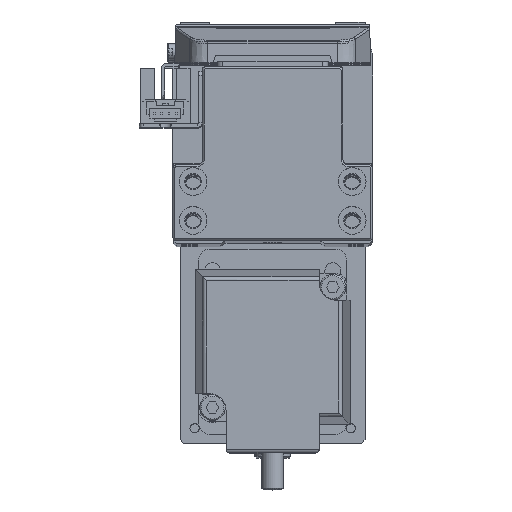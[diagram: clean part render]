
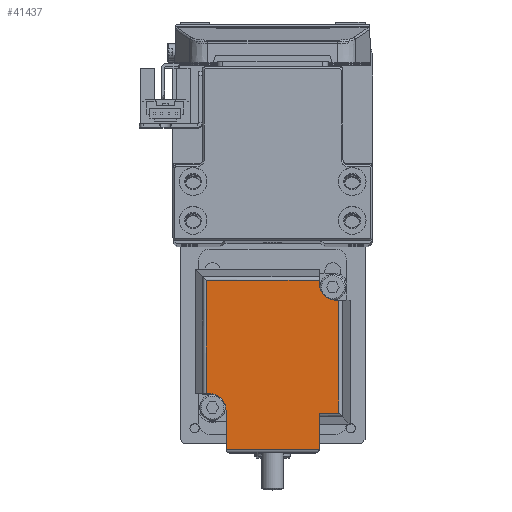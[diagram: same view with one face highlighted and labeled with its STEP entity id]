
A CAD part, top view. The second image highlights one B-rep face of the part: STEP entity #41437.
In plain terms, the highlighted planar face has unit normal (0, 0, 1) as drawn and (0, 1, 0) by its records, which use the part's own axes.
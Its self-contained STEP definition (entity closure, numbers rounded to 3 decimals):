
#7 = LINE ( 'NONE', #7771, #16183 ) ;
#43 = LINE ( 'NONE', #2878, #37545 ) ;
#389 = VERTEX_POINT ( 'NONE', #32832 ) ;
#881 = EDGE_CURVE ( 'NONE', #24530, #37977, #45633, .T. ) ;
#950 = EDGE_CURVE ( 'NONE', #2072, #24530, #27148, .T. ) ;
#1562 = DIRECTION ( 'NONE',  ( 0., 0., -1. ) ) ;
#1704 = ORIENTED_EDGE ( 'NONE', *, *, #17588, .F. ) ;
#2072 = VERTEX_POINT ( 'NONE', #35797 ) ;
#2878 = CARTESIAN_POINT ( 'NONE',  ( 27.7, 100.6, 25. ) ) ;
#3508 = CARTESIAN_POINT ( 'NONE',  ( -12.6, 100.6, -17.1 ) ) ;
#3901 = CARTESIAN_POINT ( 'NONE',  ( 17.929, 100.6, -17.929 ) ) ;
#4098 = ORIENTED_EDGE ( 'NONE', *, *, #26510, .T. ) ;
#5738 = VECTOR ( 'NONE', #46178, 1000. ) ;
#6217 = ORIENTED_EDGE ( 'NONE', *, *, #19540, .F. ) ;
#6352 = DIRECTION ( 'NONE',  ( 0., 0., 1. ) ) ;
#6552 = CARTESIAN_POINT ( 'NONE',  ( 17.929, 100.6, -12.6 ) ) ;
#7771 = CARTESIAN_POINT ( 'NONE',  ( 17.929, 100.6, -17.929 ) ) ;
#7892 = LINE ( 'NONE', #25235, #26949 ) ;
#8450 = CARTESIAN_POINT ( 'NONE',  ( 17.929, 100.6, -12.6 ) ) ;
#9416 = VERTEX_POINT ( 'NONE', #39577 ) ;
#10332 = EDGE_CURVE ( 'NONE', #26587, #44959, #24036, .T. ) ;
#11729 = PLANE ( 'NONE',  #21331 ) ;
#11853 = ORIENTED_EDGE ( 'NONE', *, *, #28881, .F. ) ;
#11965 = LINE ( 'NONE', #8450, #13814 ) ;
#12115 = VECTOR ( 'NONE', #6352, 1000. ) ;
#12447 = DIRECTION ( 'NONE',  ( -1., 0., 0. ) ) ;
#13629 = EDGE_CURVE ( 'NONE', #18564, #9416, #11965, .T. ) ;
#13702 = LINE ( 'NONE', #36603, #31570 ) ;
#13814 = VECTOR ( 'NONE', #20089, 1000. ) ;
#14143 = CIRCLE ( 'NONE', #44912, 4.5 ) ;
#14474 = DIRECTION ( 'NONE',  ( 0., 0., 1. ) ) ;
#15408 = VECTOR ( 'NONE', #16849, 1000. ) ;
#15498 = DIRECTION ( 'NONE',  ( 0., 0., -1. ) ) ;
#16183 = VECTOR ( 'NONE', #44559, 1000. ) ;
#16328 = LINE ( 'NONE', #45594, #19162 ) ;
#16362 = ORIENTED_EDGE ( 'NONE', *, *, #20916, .T. ) ;
#16842 = CARTESIAN_POINT ( 'NONE',  ( 17.1, 100.6, 12.6 ) ) ;
#16849 = DIRECTION ( 'NONE',  ( 0., 0., -1. ) ) ;
#17450 = CIRCLE ( 'NONE', #26139, 4.5 ) ;
#17588 = EDGE_CURVE ( 'NONE', #37977, #389, #16328, .T. ) ;
#17663 = CARTESIAN_POINT ( 'NONE',  ( 17.1, 100.6, 17.1 ) ) ;
#18564 = VERTEX_POINT ( 'NONE', #6552 ) ;
#19057 = ORIENTED_EDGE ( 'NONE', *, *, #10332, .F. ) ;
#19162 = VECTOR ( 'NONE', #1562, 1000. ) ;
#19540 = EDGE_CURVE ( 'NONE', #9416, #23610, #43, .T. ) ;
#19881 = CARTESIAN_POINT ( 'NONE',  ( 25., 100.6, 17.929 ) ) ;
#20089 = DIRECTION ( 'NONE',  ( 1., 0., 0. ) ) ;
#20563 = VERTEX_POINT ( 'NONE', #47830 ) ;
#20916 = EDGE_CURVE ( 'NONE', #20563, #23610, #35151, .T. ) ;
#21331 = AXIS2_PLACEMENT_3D ( 'NONE', #41117, #44508, #15498 ) ;
#21783 = CARTESIAN_POINT ( 'NONE',  ( 12.6, 100.6, 25. ) ) ;
#22596 = EDGE_CURVE ( 'NONE', #41424, #18564, #13702, .T. ) ;
#23602 = CARTESIAN_POINT ( 'NONE',  ( 12.6, 100.6, 17.929 ) ) ;
#23608 = CARTESIAN_POINT ( 'NONE',  ( -12.6, 100.6, -17.929 ) ) ;
#23610 = VERTEX_POINT ( 'NONE', #33407 ) ;
#24036 = LINE ( 'NONE', #38924, #15408 ) ;
#24530 = VERTEX_POINT ( 'NONE', #23602 ) ;
#25227 = CARTESIAN_POINT ( 'NONE',  ( -17.929, 100.6, 17.929 ) ) ;
#25235 = CARTESIAN_POINT ( 'NONE',  ( 17.929, 100.6, -12.6 ) ) ;
#25569 = CARTESIAN_POINT ( 'NONE',  ( -17.1, 100.6, -12.6 ) ) ;
#26139 = AXIS2_PLACEMENT_3D ( 'NONE', #17663, #44987, #45980 ) ;
#26510 = EDGE_CURVE ( 'NONE', #2072, #20563, #17450, .T. ) ;
#26587 = VERTEX_POINT ( 'NONE', #3508 ) ;
#26949 = VECTOR ( 'NONE', #47487, 1000. ) ;
#27148 = LINE ( 'NONE', #21783, #12115 ) ;
#27952 = ORIENTED_EDGE ( 'NONE', *, *, #22596, .F. ) ;
#28881 = EDGE_CURVE ( 'NONE', #44959, #41424, #7, .T. ) ;
#29374 = DIRECTION ( 'NONE',  ( 0., 0., 1. ) ) ;
#30714 = DIRECTION ( 'NONE',  ( 0., 0., 1. ) ) ;
#31046 = CARTESIAN_POINT ( 'NONE',  ( -17.1, 100.6, -17.1 ) ) ;
#31570 = VECTOR ( 'NONE', #29374, 1000. ) ;
#32786 = EDGE_LOOP ( 'NONE', ( #16362, #6217, #43020, #27952, #11853, #19057, #41905, #41648, #1704, #39978, #36093, #4098 ) ) ;
#32832 = CARTESIAN_POINT ( 'NONE',  ( -17.929, 100.6, -12.6 ) ) ;
#33407 = CARTESIAN_POINT ( 'NONE',  ( 27.7, 100.6, 12.6 ) ) ;
#34846 = VERTEX_POINT ( 'NONE', #25569 ) ;
#35151 = LINE ( 'NONE', #16842, #5738 ) ;
#35797 = CARTESIAN_POINT ( 'NONE',  ( 12.6, 100.6, 17.1 ) ) ;
#35814 = VECTOR ( 'NONE', #12447, 1000. ) ;
#36093 = ORIENTED_EDGE ( 'NONE', *, *, #950, .F. ) ;
#36440 = FACE_OUTER_BOUND ( 'NONE', #32786, .T. ) ;
#36603 = CARTESIAN_POINT ( 'NONE',  ( 17.929, 100.6, 25. ) ) ;
#37240 = EDGE_CURVE ( 'NONE', #389, #34846, #7892, .T. ) ;
#37545 = VECTOR ( 'NONE', #14474, 1000. ) ;
#37977 = VERTEX_POINT ( 'NONE', #25227 ) ;
#38621 = DIRECTION ( 'NONE',  ( 0., 1., 0. ) ) ;
#38924 = CARTESIAN_POINT ( 'NONE',  ( -12.6, 100.6, 25. ) ) ;
#39577 = CARTESIAN_POINT ( 'NONE',  ( 27.7, 100.6, -12.6 ) ) ;
#39978 = ORIENTED_EDGE ( 'NONE', *, *, #881, .F. ) ;
#41117 = CARTESIAN_POINT ( 'NONE',  ( 17.929, 100.6, 25. ) ) ;
#41424 = VERTEX_POINT ( 'NONE', #3901 ) ;
#41437 = ADVANCED_FACE ( 'NONE', ( #36440 ), #11729, .F. ) ;
#41648 = ORIENTED_EDGE ( 'NONE', *, *, #37240, .F. ) ;
#41905 = ORIENTED_EDGE ( 'NONE', *, *, #44868, .F. ) ;
#43020 = ORIENTED_EDGE ( 'NONE', *, *, #13629, .F. ) ;
#44508 = DIRECTION ( 'NONE',  ( 0., -1., 0. ) ) ;
#44559 = DIRECTION ( 'NONE',  ( 1., 0., 0. ) ) ;
#44868 = EDGE_CURVE ( 'NONE', #34846, #26587, #14143, .T. ) ;
#44912 = AXIS2_PLACEMENT_3D ( 'NONE', #31046, #38621, #30714 ) ;
#44959 = VERTEX_POINT ( 'NONE', #23608 ) ;
#44987 = DIRECTION ( 'NONE',  ( 0., -1., 0. ) ) ;
#45594 = CARTESIAN_POINT ( 'NONE',  ( -17.929, 100.6, 25. ) ) ;
#45633 = LINE ( 'NONE', #19881, #35814 ) ;
#45980 = DIRECTION ( 'NONE',  ( 0., 0., 1. ) ) ;
#46178 = DIRECTION ( 'NONE',  ( 1., 0., 0. ) ) ;
#47487 = DIRECTION ( 'NONE',  ( 1., 0., 0. ) ) ;
#47830 = CARTESIAN_POINT ( 'NONE',  ( 17.1, 100.6, 12.6 ) ) ;
